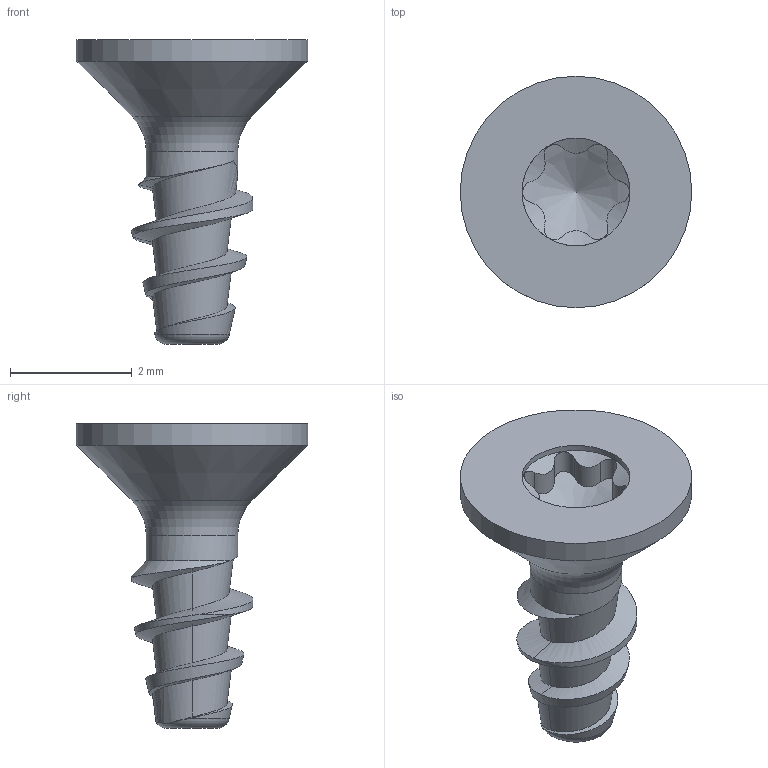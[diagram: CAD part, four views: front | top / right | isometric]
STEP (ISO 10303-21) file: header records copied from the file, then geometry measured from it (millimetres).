
FILE_DESCRIPTION(/* description */ (''),/* implementation_level */ '2;1');
FILE_NAME(/* name */ 'KN1041-STS-20x5-T6.step',/* time_stamp */ '2017-10-17T14:06:56+02:00',/* author */ (''),/* organization */ (''),/* preprocessor_version */ 'ST-DEVELOPER v16',/* originating_system */ 'SIEMENS PLM Software NX 10.0',/* authorisation */ '');
FILE_SCHEMA (('AUTOMOTIVE_DESIGN { 1 0 10303 214 3 1 1 1 }'));
Length unit declared in the file: millimetre
Products named in the file (1): KN1041-STS-20x5-T6
Bounding box: 3.8 x 3.8 x 5 mm (x, y, z)
Volume: 14.8 mm3; surface area: 53.6 mm2
Topology: 1 solids, 1 shells, 37 faces, 96 edges, 61 vertices
Faces by surface type: cylinder 16, bspline 12, cone 5, torus 2, plane 2
Full cylindrical faces by diameter (mm): 1.5 x1, 1.77 x1, 3.8 x1
Entity records: 2193 total; most frequent: CARTESIAN_POINT 1462, ORIENTED_EDGE 164, DIRECTION 95, EDGE_CURVE 82, VERTEX_POINT 56, B_SPLINE_CURVE_WITH_KNOTS 50, EDGE_LOOP 45, ADVANCED_FACE 37
